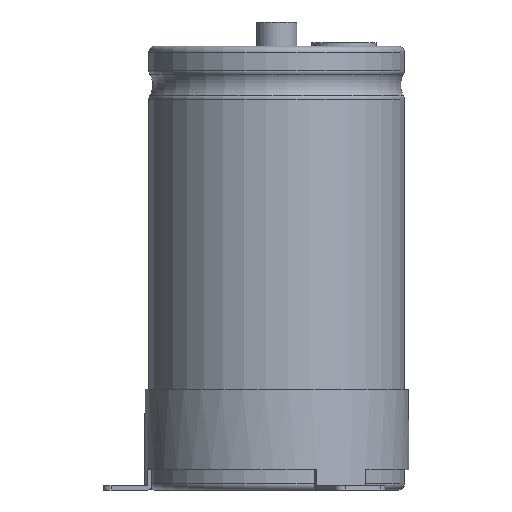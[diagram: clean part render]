
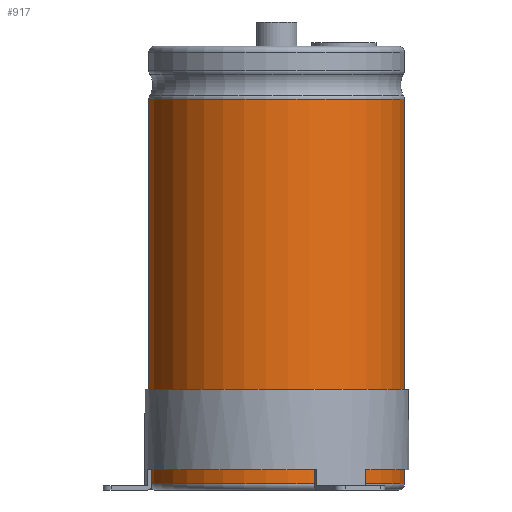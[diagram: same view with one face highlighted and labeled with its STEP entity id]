
A CAD part, front view. The second image highlights one B-rep face of the part: STEP entity #917.
In plain terms, the highlighted cylindrical face has radius 31.75 mm (diameter 63.5 mm), a partial arc.
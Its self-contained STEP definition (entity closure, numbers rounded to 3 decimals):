
#917=ADVANCED_FACE('',(#1213),#1039,.T.);
#1039=CYLINDRICAL_SURFACE('',#4878,31.75);
#1213=FACE_OUTER_BOUND('',#1474,.T.);
#1474=EDGE_LOOP('',(#2748,#2749,#2750,#2751));
#1758=CIRCLE('',#4875,31.75);
#1759=CIRCLE('',#4877,31.75);
#2748=ORIENTED_EDGE('',*,*,#3929,.T.);
#2749=ORIENTED_EDGE('',*,*,#3930,.T.);
#2750=ORIENTED_EDGE('',*,*,#3931,.F.);
#2751=ORIENTED_EDGE('',*,*,#3932,.F.);
#3366=VERTEX_POINT('',#7964);
#3368=VERTEX_POINT('',#7968);
#3369=VERTEX_POINT('',#7972);
#3370=VERTEX_POINT('',#7974);
#3929=EDGE_CURVE('',#3366,#3368,#1758,.T.);
#3930=EDGE_CURVE('',#3368,#3369,#4255,.T.);
#3931=EDGE_CURVE('',#3370,#3369,#1759,.T.);
#3932=EDGE_CURVE('',#3366,#3370,#4256,.T.);
#4255=LINE('',#7971,#4469);
#4256=LINE('',#7975,#4470);
#4469=VECTOR('',#5936,1.);
#4470=VECTOR('',#5939,1.);
#4875=AXIS2_PLACEMENT_3D('',#7969,#5932,#5933);
#4877=AXIS2_PLACEMENT_3D('',#7973,#5937,#5938);
#4878=AXIS2_PLACEMENT_3D('',#7976,#5940,#5941);
#5932=DIRECTION('',(0.,0.,-1.));
#5933=DIRECTION('',(0.,1.,0.));
#5936=DIRECTION('',(0.,0.,-1.));
#5937=DIRECTION('',(0.,0.,-1.));
#5938=DIRECTION('',(0.,1.,0.));
#5939=DIRECTION('',(0.,0.,-1.));
#5940=DIRECTION('',(0.,0.,-1.));
#5941=DIRECTION('',(0.,1.,0.));
#7964=CARTESIAN_POINT('',(4.007,31.496,96.9));
#7968=CARTESIAN_POINT('',(-4.007,31.496,96.9));
#7969=CARTESIAN_POINT('',(0.,0.,96.9));
#7971=CARTESIAN_POINT('',(-4.007,31.496,96.9));
#7972=CARTESIAN_POINT('',(-4.007,31.496,1.5));
#7973=CARTESIAN_POINT('',(0.,0.,1.5));
#7974=CARTESIAN_POINT('',(4.007,31.496,1.5));
#7975=CARTESIAN_POINT('',(4.007,31.496,96.9));
#7976=CARTESIAN_POINT('',(0.,0.,0.));
